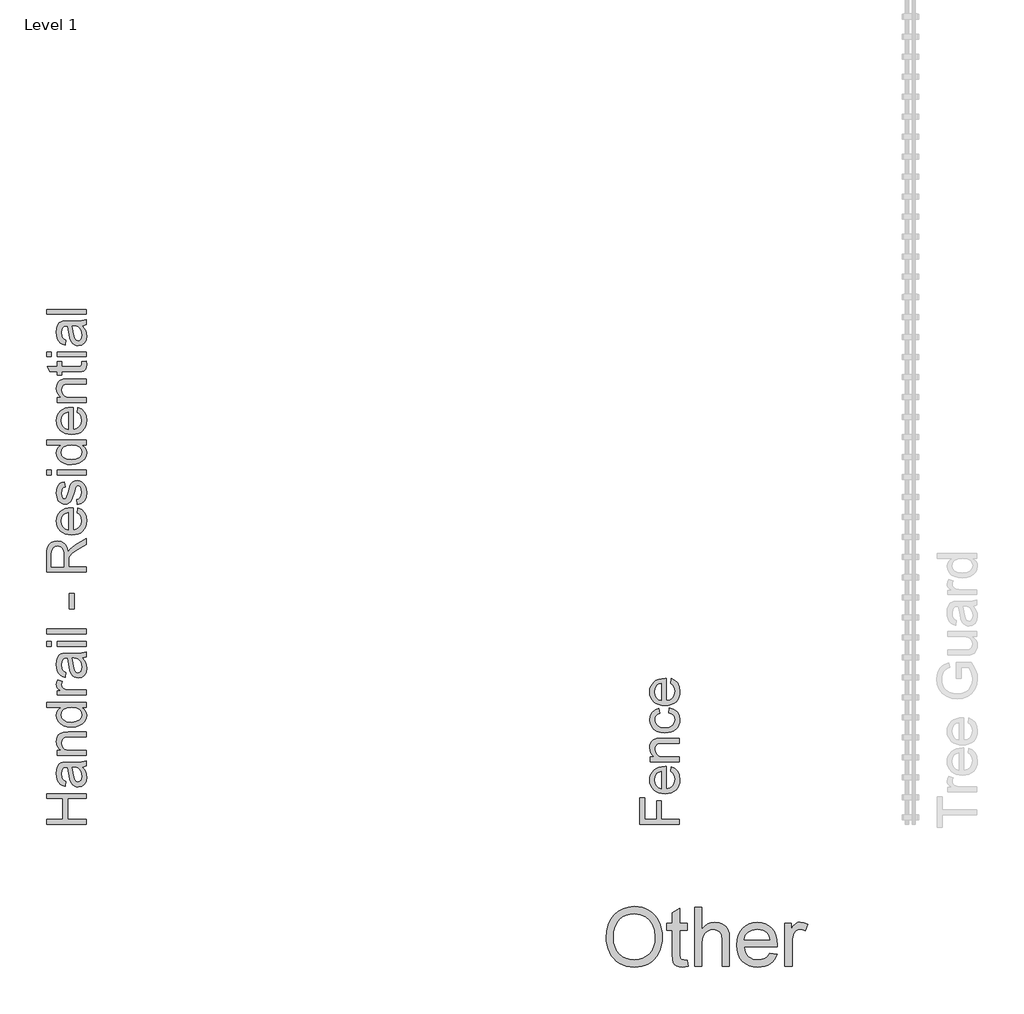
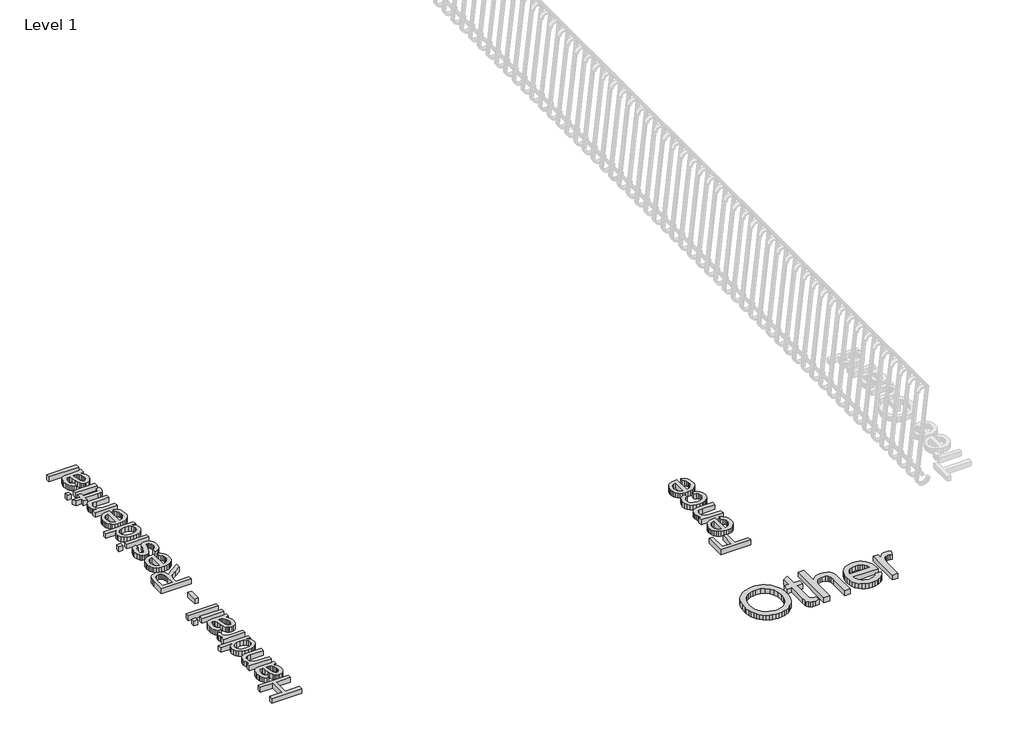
# One storey, part 13 of 14: 3 proxies.
"""IFC4 building model written with IfcOpenShell, lengths in millimetres."""

from ifc_helpers import new_model, si_unit, origin, origin_with_axes, place, context, project, spatial, polyline, outline, extrude, element, save

model = new_model("IFC4")

# Units and contexts
model_context = context("Model", 3, world=origin())
ifc_project = project(units=[si_unit("LENGTHUNIT", "METRE", prefix="MILLI")], contexts=[model_context])

# Site, building, storey
site = spatial("IfcSite", under=ifc_project)
building = spatial("IfcBuilding", under=site)
storey = spatial("IfcBuildingStorey", under=building, Name="Level 1", Elevation=0.0)

# Proxies
placement = place(None, origin())
element("IfcBuildingElementProxy", 1, Name="12\" Arial", ObjectType="12\" Arial", at=placement, inside=storey, context=model_context, shape_type="SweptSolid", body=[
    extrude(outline(polyline([(8164.4958415, -14491.3688513), (7864.3850722, -14491.3688513), (7864.3850722, -14289.7319282), (7901.8989184, -14289.7319282), (7901.8989184, -14453.8550051), (7990.994303, -14453.8550051), (7990.994303, -14313.178082), (8028.5081492, -14313.178082), (8028.5081492, -14453.8550051), (8164.4958415, -14453.8550051), (8164.4958415, -14491.3688513)])), origin_with_axes(), (0.0, 0.0, 1.0), 50.8),
    extrude(outline(polyline([(8098.8466107, -14088.5346205), (8103.5358415, -14051.7534666), (8131.249928, -14065.0060388), (8151.966803, -14086.1533705), (8164.8805049, -14114.7192118), (8169.1850722, -14150.2273128), (8167.3281552, -14173.5040315), (8161.757404, -14194.2438032), (8152.4728186, -14212.4466277), (8139.4743992, -14228.1125051), (8123.1239124, -14240.7102335), (8103.7831251, -14249.7086109), (8081.4520374, -14255.1076373), (8056.1306492, -14256.9073128), (8029.9506371, -14255.08932), (8006.8754088, -14249.6353416), (7986.9049641, -14240.5453777), (7970.039303, -14227.8194282), (7956.6401924, -14212.1947647), (7947.0693992, -14194.4086589), (7941.3269232, -14174.4611109), (7939.4127645, -14152.3521205), (7941.3223439, -14130.9552154), (7947.0510818, -14111.6052695), (7956.5989785, -14094.3022827), (7969.9660338, -14079.0462551), (7986.7950602, -14066.5927755), (8006.7288703, -14057.697433), (8029.7674641, -14052.3602275), (8055.9108415, -14050.5811589), (8066.0219953, -14050.8009666), (8066.0219953, -14219.3934666), (8094.102428, -14212.8999811), (8114.7460338, -14197.8156782), (8127.439928, -14176.045558), (8131.6712261, -14149.4946205), (8129.7112742, -14129.5287551), (8123.8314184, -14112.7134666), (8113.6653126, -14099.0487551), (8098.8466107, -14088.5346205)]), holes=[polyline([(8028.5081492, -14219.3934666), (8028.5081492, -14088.0950051), (8008.6888222, -14093.1688993), (7994.5112261, -14103.1151974), (7981.3227645, -14124.9860628), (7976.9266107, -14152.4986589), (7980.4343751, -14177.7857022), (7990.9576684, -14198.6949089), (8007.3608174, -14213.2296926), (8028.5081492, -14219.3934666)])]), origin_with_axes(), (0.0, 0.0, 1.0), 50.8),
    extrude(outline(polyline([(8164.4958415, -14013.0673128), (7944.1019953, -14013.0673128), (7944.1019953, -13975.5534666), (7974.8750722, -13975.5534666), (7959.3603126, -13962.5207022), (7948.2783415, -13946.8685628), (7941.6291588, -13928.5970484), (7939.4127645, -13907.7061589), (7941.198702, -13889.2148368), (7946.5565145, -13872.2804859), (7954.8176203, -13858.1578416), (7965.3134376, -13848.1016397), (7992.899303, -13836.8548128), (8029.1675722, -13834.8765436), (8164.4958415, -13834.8765436), (8164.4958415, -13872.3903897), (8034.2231492, -13872.3903897), (8001.0321876, -13876.7132743), (7991.1500001, -13882.6938753), (7983.4842068, -13891.9899089), (7978.5660097, -13903.9053176), (7976.9266107, -13917.7440436), (7980.6083895, -13939.7156541), (7991.6537261, -13958.4451013), (8000.6704208, -13965.9300111), (8012.9933895, -13971.2763753), (8047.5581492, -13975.5534666), (8164.4958415, -13975.5534666), (8164.4958415, -14013.0673128)])), origin_with_axes(), (0.0, 0.0, 1.0), 50.8),
    extrude(outline(polyline([(8084.7789184, -13642.618082), (8089.4681492, -13605.1042359), (8122.8331251, -13615.5634186), (8148.0468992, -13635.2178897), (8163.900529, -13662.2176013), (8169.1850722, -13694.7125051), (8167.3418931, -13715.7522226), (8161.8123559, -13734.6167599), (8152.5964605, -13751.3061169), (8139.6942068, -13765.8202936), (8123.3482994, -13777.5685568), (8103.8014424, -13785.9601734), (8081.0536359, -13790.9951433), (8055.1048799, -13792.6734666), (8021.7215867, -13789.806808), (7992.7893992, -13781.206832), (7969.4256732, -13766.7361589), (7952.7477645, -13746.2574089), (7942.7465145, -13721.7580099), (7939.4127645, -13695.2253897), (7943.9920915, -13663.5272888), (7957.7300722, -13638.1852936), (7979.8940145, -13620.0053657), (8009.7512261, -13609.7934666), (8014.4404568, -13647.3073128), (7998.0739424, -13654.1121926), (7986.3417068, -13664.7087551), (7979.2803847, -13678.5108464), (7976.9266107, -13694.9323128), (7981.5608895, -13719.1752695), (7995.4637261, -13738.4176013), (8019.3861299, -13750.9741157), (8054.0791107, -13755.1596205), (8089.2391828, -13751.0657022), (8113.2440145, -13738.7839474), (8127.0644232, -13719.8896445), (8131.6712261, -13695.958082), (8128.7954088, -13676.5325772), (8120.1679568, -13660.6056782), (8105.5690626, -13649.0199811), (8084.7789184, -13642.618082)])), origin_with_axes(), (0.0, 0.0, 1.0), 50.8),
    extrude(outline(polyline([(8098.8466107, -13417.9746205), (8103.5358415, -13381.1934666), (8131.249928, -13394.4460388), (8151.966803, -13415.5933705), (8164.8805049, -13444.1592118), (8169.1850722, -13479.6673128), (8167.3281552, -13502.9440315), (8161.757404, -13523.6838032), (8152.4728186, -13541.8866277), (8139.4743992, -13557.5525051), (8123.1239124, -13570.1502335), (8103.7831251, -13579.1486109), (8081.4520374, -13584.5476373), (8056.1306492, -13586.3473128), (8029.9506371, -13584.52932), (8006.8754088, -13579.0753416), (7986.9049641, -13569.9853777), (7970.039303, -13557.2594282), (7956.6401924, -13541.6347647), (7947.0693992, -13523.8486589), (7941.3269232, -13503.9011109), (7939.4127645, -13481.7921205), (7941.3223439, -13460.3952154), (7947.0510818, -13441.0452695), (7956.5989785, -13423.7422827), (7969.9660338, -13408.4862551), (7986.7950602, -13396.0327755), (8006.7288703, -13387.137433), (8029.7674641, -13381.8002275), (8055.9108415, -13380.0211589), (8066.0219953, -13380.2409666), (8066.0219953, -13548.8334666), (8094.102428, -13542.3399811), (8114.7460338, -13527.2556782), (8127.439928, -13505.485558), (8131.6712261, -13478.9346205), (8129.7112742, -13458.9687551), (8123.8314184, -13442.1534666), (8113.6653126, -13428.4887551), (8098.8466107, -13417.9746205)]), holes=[polyline([(8028.5081492, -13548.8334666), (8028.5081492, -13417.5350051), (8008.6888222, -13422.6088993), (7994.5112261, -13432.5551974), (7981.3227645, -13454.4260628), (7976.9266107, -13481.9386589), (7980.4343751, -13507.2257022), (7990.9576684, -13528.1349089), (8007.3608174, -13542.6696926), (8028.5081492, -13548.8334666)])]), origin_with_axes(), (0.0, 0.0, 1.0), 50.8),
])
element("IfcBuildingElementProxy", 2, Name="12\" Arial", ObjectType="12\" Arial", at=placement, inside=storey, context=model_context, shape_type="SweptSolid", body=[
    extrude(outline(polyline([(3651.3178599, -14491.3688513), (3351.2070907, -14491.3688513), (3351.2070907, -14453.8550051), (3473.1270907, -14453.8550051), (3473.1270907, -14294.4211589), (3351.2070907, -14294.4211589), (3351.2070907, -14256.9073128), (3651.3178599, -14256.9073128), (3651.3178599, -14294.4211589), (3510.6409368, -14294.4211589), (3510.6409368, -14453.8550051), (3651.3178599, -14453.8550051), (3651.3178599, -14491.3688513)])), origin_with_axes(), (0.0, 0.0, 1.0), 50.8),
    extrude(outline(polyline([(3623.1824753, -14055.2703897), (3638.5506964, -14073.1938753), (3648.6068984, -14091.6485628), (3654.1570426, -14111.0557503), (3656.0070907, -14131.8367359), (3651.5559849, -14163.186808), (3638.2026676, -14186.3124089), (3617.925408, -14200.572433), (3592.7024753, -14205.3257743), (3577.1510811, -14203.5306782), (3563.0284368, -14198.1453897), (3550.9390137, -14189.8384907), (3541.487283, -14179.2785628), (3529.1780522, -14153.0115436), (3523.5363214, -14120.5532743), (3517.6015137, -14082.196832), (3510.6409368, -14055.4901974), (3502.2882445, -14055.2703897), (3485.5462253, -14057.8531301), (3474.5924753, -14065.6013513), (3466.4595907, -14082.9295243), (3463.7486291, -14107.0717359), (3465.5528839, -14129.4188513), (3470.9656484, -14145.0251974), (3480.976057, -14155.6675532), (3496.5732445, -14163.1226974), (3491.8840137, -14200.6365436), (3471.3686291, -14194.1247407), (3455.2493984, -14184.4074089), (3442.9218503, -14170.5778416), (3433.7815137, -14151.729332), (3428.1214657, -14128.6770003), (3426.234783, -14102.2359666), (3427.901658, -14076.8756541), (3432.902283, -14056.7724089), (3440.4215378, -14041.6148368), (3449.6443022, -14031.0915436), (3461.0468262, -14024.1126493), (3475.1053599, -14019.5882743), (3507.9299753, -14017.7565436), (3554.6024753, -14017.7565436), (3619.7754561, -14015.8515436), (3651.3178599, -14008.378082), (3651.3178599, -14045.8919282), (3623.1824753, -14055.2703897)]), holes=[polyline([(3548.154783, -14055.2703897), (3559.6580522, -14115.7907743), (3565.7393984, -14148.0658705), (3575.6307445, -14162.683082), (3590.064783, -14167.8119282), (3601.2200234, -14165.0185388), (3610.3603599, -14156.6383705), (3616.4600234, -14142.8545964), (3618.4932445, -14123.8503897), (3616.2493743, -14103.7013513), (3609.5177637, -14085.8969282), (3599.5989416, -14071.4628897), (3587.7934368, -14061.4250051), (3575.6307445, -14056.9738993), (3558.7788214, -14055.4901974), (3548.154783, -14055.2703897)])]), origin_with_axes(), (0.0, 0.0, 1.0), 50.8),
    extrude(outline(polyline([(3651.3178599, -13966.1750051), (3430.9240137, -13966.1750051), (3430.9240137, -13928.6611589), (3461.6970907, -13928.6611589), (3446.1823311, -13915.6283945), (3435.1003599, -13899.9762551), (3428.4511772, -13881.7047407), (3426.234783, -13860.8138513), (3428.0207205, -13842.3225291), (3433.378533, -13825.3881782), (3441.6396387, -13811.2655339), (3452.1354561, -13801.209332), (3479.7213214, -13789.9625051), (3515.9895907, -13787.9842359), (3651.3178599, -13787.9842359), (3651.3178599, -13825.498082), (3521.0451676, -13825.498082), (3487.8542061, -13829.8209666), (3477.9720186, -13835.8015676), (3470.3062253, -13845.0976013), (3465.3880282, -13857.0130099), (3463.7486291, -13870.8517359), (3467.430408, -13892.8233464), (3478.4757445, -13911.5527936), (3487.4924392, -13919.0377034), (3499.815408, -13924.3840676), (3534.3801676, -13928.6611589), (3651.3178599, -13928.6611589), (3651.3178599, -13966.1750051)])), origin_with_axes(), (0.0, 0.0, 1.0), 50.8),
    extrude(outline(polyline([(3651.3178599, -13600.4150051), (3615.9288214, -13600.4150051), (3633.4630642, -13611.6389354), (3645.9875234, -13625.234957), (3653.5021988, -13641.20307), (3656.0070907, -13659.5432743), (3652.3802637, -13683.7953897), (3641.499783, -13705.9959666), (3624.1258166, -13724.7895243), (3601.018533, -13738.820582), (3573.1121147, -13747.5579378), (3541.3407445, -13750.4703897), (3509.9631964, -13747.7869041), (3481.6263214, -13739.7364474), (3457.9420426, -13726.3281782), (3440.522283, -13707.5712551), (3429.806658, -13684.8852695), (3426.234783, -13659.6898128), (3428.7900474, -13641.3358705), (3436.4558407, -13625.1067359), (3448.2063936, -13611.3504378), (3463.0159368, -13600.4150051), (3351.2070907, -13600.4150051), (3351.2070907, -13562.9011589), (3651.3178599, -13562.9011589), (3651.3178599, -13600.4150051)]), holes=[polyline([(3541.1942061, -13712.9565436), (3575.1270186, -13708.7252455), (3599.2600714, -13696.0313513), (3613.6849512, -13677.5858224), (3618.4932445, -13656.0996205), (3613.9047589, -13634.6225772), (3600.1393022, -13616.6441397), (3576.940432, -13604.4722888), (3544.0517061, -13600.4150051), (3508.0948311, -13604.545558), (3483.1649753, -13616.9372166), (3468.6027157, -13635.3735868), (3463.7486291, -13657.6382743), (3468.4103839, -13679.3442839), (3482.3956484, -13697.1303897), (3506.4187974, -13709.0000051), (3541.1942061, -13712.9565436)])]), origin_with_axes(), (0.0, 0.0, 1.0), 50.8),
    extrude(outline(polyline([(3651.3178599, -13506.6303897), (3430.9240137, -13506.6303897), (3430.9240137, -13473.8057743), (3463.5288214, -13473.8057743), (3444.6253599, -13461.6797166), (3433.4884368, -13450.5061589), (3428.0481964, -13439.2959666), (3426.234783, -13427.0600051), (3429.1289176, -13408.3763513), (3437.8113214, -13389.3996205), (3471.4418984, -13401.9286589), (3465.6719464, -13415.1171205), (3463.7486291, -13428.305582), (3465.5986772, -13439.5066157), (3471.1488214, -13449.5170243), (3479.9777637, -13457.6041157), (3491.6642061, -13463.0351974), (3512.6192061, -13467.596207), (3535.4792061, -13469.1165436), (3651.3178599, -13469.1165436), (3651.3178599, -13506.6303897)])), origin_with_axes(), (0.0, 0.0, 1.0), 50.8),
    extrude(outline(polyline([(3623.1824753, -13225.2765436), (3638.5506964, -13243.2000291), (3648.6068984, -13261.6547166), (3654.1570426, -13281.0619041), (3656.0070907, -13301.8428897), (3651.5559849, -13333.1929618), (3638.2026676, -13356.3185628), (3617.925408, -13370.5785868), (3592.7024753, -13375.3319282), (3577.1510811, -13373.536832), (3563.0284368, -13368.1515436), (3550.9390137, -13359.8446445), (3541.487283, -13349.2847166), (3529.1780522, -13323.0176974), (3523.5363214, -13290.5594282), (3517.6015137, -13252.2029859), (3510.6409368, -13225.4963513), (3502.2882445, -13225.2765436), (3485.5462253, -13227.8592839), (3474.5924753, -13235.6075051), (3466.4595907, -13252.9356782), (3463.7486291, -13277.0778897), (3465.5528839, -13299.4250051), (3470.9656484, -13315.0313513), (3480.976057, -13325.673707), (3496.5732445, -13333.1288513), (3491.8840137, -13370.6426974), (3471.3686291, -13364.1308945), (3455.2493984, -13354.4135628), (3442.9218503, -13340.5839955), (3433.7815137, -13321.7354859), (3428.1214657, -13298.6831541), (3426.234783, -13272.2421205), (3427.901658, -13246.881808), (3432.902283, -13226.7785628), (3440.4215378, -13211.6209907), (3449.6443022, -13201.0976974), (3461.0468262, -13194.1188032), (3475.1053599, -13189.5944282), (3507.9299753, -13187.7626974), (3554.6024753, -13187.7626974), (3619.7754561, -13185.8576974), (3651.3178599, -13178.3842359), (3651.3178599, -13215.898082), (3623.1824753, -13225.2765436)]), holes=[polyline([(3548.154783, -13225.2765436), (3559.6580522, -13285.7969282), (3565.7393984, -13318.0720243), (3575.6307445, -13332.6892359), (3590.064783, -13337.818082), (3601.2200234, -13335.0246926), (3610.3603599, -13326.6445243), (3616.4600234, -13312.8607503), (3618.4932445, -13293.8565436), (3616.2493743, -13273.7075051), (3609.5177637, -13255.903082), (3599.5989416, -13241.4690436), (3587.7934368, -13231.4311589), (3575.6307445, -13226.9800532), (3558.7788214, -13225.4963513), (3548.154783, -13225.2765436)])]), origin_with_axes(), (0.0, 0.0, 1.0), 50.8),
    extrude(outline(polyline([(3388.7209368, -13136.1811589), (3351.2070907, -13136.1811589), (3351.2070907, -13098.6673128), (3388.7209368, -13098.6673128), (3388.7209368, -13136.1811589)])), origin_with_axes(), (0.0, 0.0, 1.0), 50.8),
    extrude(outline(polyline([(3651.3178599, -13136.1811589), (3430.9240137, -13136.1811589), (3430.9240137, -13098.6673128), (3651.3178599, -13098.6673128), (3651.3178599, -13136.1811589)])), origin_with_axes(), (0.0, 0.0, 1.0), 50.8),
    extrude(outline(polyline([(3651.3178599, -13042.3965436), (3351.2070907, -13042.3965436), (3351.2070907, -13004.8826974), (3651.3178599, -13004.8826974), (3651.3178599, -13042.3965436)])), origin_with_axes(), (0.0, 0.0, 1.0), 50.8),
    extrude(outline(polyline([(3562.2224753, -12850.138082), (3524.7086291, -12850.138082), (3524.7086291, -12732.9073128), (3562.2224753, -12732.9073128), (3562.2224753, -12850.138082)])), origin_with_axes(), (0.0, 0.0, 1.0), 50.8),
    extrude(outline(polyline([(3651.3178599, -12568.7842359), (3351.2070907, -12568.7842359), (3351.2070907, -12439.4640436), (3353.2311532, -12404.7069522), (3359.3033407, -12379.4199089), (3370.513533, -12360.9377455), (3387.9516099, -12346.5952936), (3409.5751916, -12337.3908464), (3433.3418984, -12334.3226974), (3462.906033, -12339.4057503), (3487.4145907, -12354.6549089), (3497.4021027, -12366.2062611), (3505.3838695, -12380.5281061), (3515.3301676, -12417.4832743), (3531.3761291, -12396.1619282), (3569.9890137, -12365.7551974), (3651.3178599, -12315.7123128), (3651.3178599, -12359.3075051), (3589.112283, -12398.3600051), (3547.9349753, -12426.5686589), (3528.4819945, -12446.3879859), (3521.3382445, -12464.2290436), (3520.0193984, -12485.9900051), (3520.0193984, -12531.2703897), (3651.3178599, -12531.2703897), (3651.3178599, -12568.7842359)]), holes=[polyline([(3482.5055522, -12531.2703897), (3482.5055522, -12447.3038513), (3481.1775474, -12423.1891157), (3477.193533, -12404.4779859), (3470.287908, -12390.3919763), (3460.1950714, -12380.1526013), (3447.9865859, -12373.915558), (3434.7340137, -12371.8365436), (3416.4350234, -12375.8022407), (3401.6895907, -12387.699332), (3391.9631003, -12408.1689234), (3388.7209368, -12437.8521205), (3388.7209368, -12531.2703897), (3482.5055522, -12531.2703897)])]), origin_with_axes(), (0.0, 0.0, 1.0), 50.8),
    extrude(outline(polyline([(3585.6686291, -12119.0576974), (3590.3578599, -12082.2765436), (3618.0719464, -12095.5291157), (3638.7888214, -12116.6764474), (3651.7025234, -12145.2422888), (3656.0070907, -12180.7503897), (3654.1501736, -12204.0271085), (3648.5794224, -12224.7668801), (3639.2948371, -12242.9697046), (3626.2964176, -12258.635582), (3609.9459308, -12271.2333104), (3590.6051436, -12280.2316878), (3568.2740558, -12285.6307142), (3542.9526676, -12287.4303897), (3516.7726556, -12285.6123969), (3493.6974272, -12280.1584186), (3473.7269825, -12271.0684546), (3456.8613214, -12258.3425051), (3443.4622109, -12242.7178416), (3433.8914176, -12224.9317359), (3428.1489416, -12204.9841878), (3426.234783, -12182.8751974), (3428.1443623, -12161.4782924), (3433.8731003, -12142.1283464), (3443.4209969, -12124.8253597), (3456.7880522, -12109.569332), (3473.6170786, -12097.1158525), (3493.5508887, -12088.2205099), (3516.5894825, -12082.8833044), (3542.7328599, -12081.1042359), (3552.8440137, -12081.3240436), (3552.8440137, -12249.9165436), (3580.9244464, -12243.423058), (3601.5680522, -12228.3387551), (3614.2619464, -12206.5686349), (3618.4932445, -12180.0176974), (3616.5332926, -12160.051832), (3610.6534368, -12143.2365436), (3600.4873311, -12129.571832), (3585.6686291, -12119.0576974)]), holes=[polyline([(3515.3301676, -12249.9165436), (3515.3301676, -12118.618082), (3495.5108407, -12123.6919763), (3481.3332445, -12133.6382743), (3468.144783, -12155.5091397), (3463.7486291, -12183.0217359), (3467.2563936, -12208.3087791), (3477.7796868, -12229.2179859), (3494.1828359, -12243.7527695), (3515.3301676, -12249.9165436)])]), origin_with_axes(), (0.0, 0.0, 1.0), 50.8),
    extrude(outline(polyline([(3585.6686291, -12057.658082), (3580.9793984, -12020.1442359), (3597.0253599, -12014.2277455), (3608.8217061, -12002.7794282), (3616.0753599, -11985.7260147), (3618.4932445, -11962.9942359), (3616.2768503, -11940.5372166), (3609.6276676, -11924.7476974), (3599.9927637, -11915.4058705), (3588.8192061, -11912.2919282), (3579.2575714, -11915.4241878), (3571.967283, -11924.8209666), (3561.2699753, -11963.4338513), (3542.916033, -12019.9244282), (3533.6932686, -12034.2210868), (3521.484783, -12044.5795243), (3507.0690618, -12050.8715195), (3491.2245907, -12052.9688513), (3476.689807, -12051.2836589), (3463.2723791, -12046.228082), (3451.5035089, -12038.2600532), (3441.9143984, -12027.8375051), (3430.8141099, -12003.9883705), (3426.234783, -11971.7132743), (3428.0756724, -11947.2963032), (3433.5983407, -11926.0665436), (3442.2624272, -11908.9948128), (3453.5275714, -11897.0519282), (3468.2272109, -11889.1388513), (3487.194783, -11884.1565436), (3491.8840137, -11921.6703897), (3480.0785089, -11926.4054138), (3471.1854561, -11935.7747166), (3465.6078359, -11949.8698849), (3463.7486291, -11968.7825051), (3465.525408, -11990.3236589), (3470.8557445, -12004.6844282), (3478.5490137, -12012.7623609), (3487.4145907, -12015.4550051), (3498.3317061, -12010.985582), (3506.6111291, -11996.9911589), (3514.5974753, -11964.6794282), (3532.2553599, -11909.6176013), (3540.6996387, -11895.0736589), (3552.2578599, -11884.0466397), (3566.966658, -11877.0952214), (3584.8626676, -11874.778082), (3603.3631484, -11877.4982022), (3620.7645907, -11885.6585628), (3635.7023551, -11898.9477695), (3646.8118022, -11917.0544282), (3653.7082686, -11938.9252936), (3656.0070907, -11963.5071205), (3651.5743022, -12001.3323609), (3638.2759368, -12028.9365436), (3616.258533, -12047.3637551), (3585.6686291, -12057.658082)])), origin_with_axes(), (0.0, 0.0, 1.0), 50.8),
    extrude(outline(polyline([(3388.7209368, -11832.5750051), (3351.2070907, -11832.5750051), (3351.2070907, -11795.0611589), (3388.7209368, -11795.0611589), (3388.7209368, -11832.5750051)])), origin_with_axes(), (0.0, 0.0, 1.0), 50.8),
    extrude(outline(polyline([(3651.3178599, -11832.5750051), (3430.9240137, -11832.5750051), (3430.9240137, -11795.0611589), (3651.3178599, -11795.0611589), (3651.3178599, -11832.5750051)])), origin_with_axes(), (0.0, 0.0, 1.0), 50.8),
    extrude(outline(polyline([(3651.3178599, -11602.8026974), (3615.9288214, -11602.8026974), (3633.4630642, -11614.0266277), (3645.9875234, -11627.6226493), (3653.5021988, -11643.5907623), (3656.0070907, -11661.9309666), (3652.3802637, -11686.183082), (3641.499783, -11708.3836589), (3624.1258166, -11727.1772166), (3601.018533, -11741.2082743), (3573.1121147, -11749.9456301), (3541.3407445, -11752.858082), (3509.9631964, -11750.1745964), (3481.6263214, -11742.1241397), (3457.9420426, -11728.7158705), (3440.522283, -11709.9589474), (3429.806658, -11687.2729618), (3426.234783, -11662.0775051), (3428.7900474, -11643.7235628), (3436.4558407, -11627.4944282), (3448.2063936, -11613.7381301), (3463.0159368, -11602.8026974), (3351.2070907, -11602.8026974), (3351.2070907, -11565.2888513), (3651.3178599, -11565.2888513), (3651.3178599, -11602.8026974)]), holes=[polyline([(3541.1942061, -11715.3442359), (3575.1270186, -11711.1129378), (3599.2600714, -11698.4190436), (3613.6849512, -11679.9735147), (3618.4932445, -11658.4873128), (3613.9047589, -11637.0102695), (3600.1393022, -11619.031832), (3576.940432, -11606.8599811), (3544.0517061, -11602.8026974), (3508.0948311, -11606.9332503), (3483.1649753, -11619.3249089), (3468.6027157, -11637.7612791), (3463.7486291, -11660.0259666), (3468.4103839, -11681.7319763), (3482.3956484, -11699.518082), (3506.4187974, -11711.3876974), (3541.1942061, -11715.3442359)])]), origin_with_axes(), (0.0, 0.0, 1.0), 50.8),
    extrude(outline(polyline([(3585.6686291, -11354.713082), (3590.3578599, -11317.9319282), (3618.0719464, -11331.1845003), (3638.7888214, -11352.331832), (3651.7025234, -11380.8976734), (3656.0070907, -11416.4057743), (3654.1501736, -11439.6824931), (3648.5794224, -11460.4222647), (3639.2948371, -11478.6250892), (3626.2964176, -11494.2909666), (3609.9459308, -11506.888695), (3590.6051436, -11515.8870724), (3568.2740558, -11521.2860989), (3542.9526676, -11523.0857743), (3516.7726556, -11521.2677815), (3493.6974272, -11515.8138032), (3473.7269825, -11506.7238392), (3456.8613214, -11493.9978897), (3443.4622109, -11478.3732263), (3433.8914176, -11460.5871205), (3428.1489416, -11440.6395724), (3426.234783, -11418.530582), (3428.1443623, -11397.133677), (3433.8731003, -11377.7837311), (3443.4209969, -11360.4807443), (3456.7880522, -11345.2247166), (3473.6170786, -11332.7712371), (3493.5508887, -11323.8758945), (3516.5894825, -11318.538689), (3542.7328599, -11316.7596205), (3552.8440137, -11316.9794282), (3552.8440137, -11485.5719282), (3580.9244464, -11479.0784426), (3601.5680522, -11463.9941397), (3614.2619464, -11442.2240195), (3618.4932445, -11415.673082), (3616.5332926, -11395.7072166), (3610.6534368, -11378.8919282), (3600.4873311, -11365.2272166), (3585.6686291, -11354.713082)]), holes=[polyline([(3515.3301676, -11485.5719282), (3515.3301676, -11354.2734666), (3495.5108407, -11359.3473609), (3481.3332445, -11369.2936589), (3468.144783, -11391.1645243), (3463.7486291, -11418.6771205), (3467.2563936, -11443.9641638), (3477.7796868, -11464.8733705), (3494.1828359, -11479.4081541), (3515.3301676, -11485.5719282)])]), origin_with_axes(), (0.0, 0.0, 1.0), 50.8),
    extrude(outline(polyline([(3651.3178599, -11279.2457743), (3430.9240137, -11279.2457743), (3430.9240137, -11241.7319282), (3461.6970907, -11241.7319282), (3446.1823311, -11228.6991638), (3435.1003599, -11213.0470243), (3428.4511772, -11194.7755099), (3426.234783, -11173.8846205), (3428.0207205, -11155.3932984), (3433.378533, -11138.4589474), (3441.6396387, -11124.3363032), (3452.1354561, -11114.2801013), (3479.7213214, -11103.0332743), (3515.9895907, -11101.0550051), (3651.3178599, -11101.0550051), (3651.3178599, -11138.5688513), (3521.0451676, -11138.5688513), (3487.8542061, -11142.8917359), (3477.9720186, -11148.8723368), (3470.3062253, -11158.1683705), (3465.3880282, -11170.0837791), (3463.7486291, -11183.9225051), (3467.430408, -11205.8941157), (3478.4757445, -11224.6235628), (3487.4924392, -11232.1084726), (3499.815408, -11237.4548368), (3534.3801676, -11241.7319282), (3651.3178599, -11241.7319282), (3651.3178599, -11279.2457743)])), origin_with_axes(), (0.0, 0.0, 1.0), 50.8),
    extrude(outline(polyline([(3620.0318984, -10969.7565436), (3652.4168984, -10965.0673128), (3656.0070907, -10993.1294282), (3654.4501195, -11011.1353416), (3649.7792061, -11024.5619282), (3642.5805041, -11034.0502936), (3633.4401676, -11040.2415436), (3617.7422349, -11043.6485628), (3590.8707445, -11044.7842359), (3468.4378599, -11044.7842359), (3468.4378599, -11072.9196205), (3430.9240137, -11072.9196205), (3430.9240137, -11044.7842359), (3377.3642061, -11044.7842359), (3355.3101676, -11007.2703897), (3430.9240137, -11007.2703897), (3430.9240137, -10969.7565436), (3468.4378599, -10969.7565436), (3468.4378599, -11007.2703897), (3589.7717061, -11007.2703897), (3609.114783, -11005.2921205), (3615.9654561, -10998.8810628), (3618.4932445, -10986.095582), (3620.0318984, -10969.7565436)])), origin_with_axes(), (0.0, 0.0, 1.0), 50.8),
    extrude(outline(polyline([(3388.7209368, -10932.2426974), (3351.2070907, -10932.2426974), (3351.2070907, -10894.7288513), (3388.7209368, -10894.7288513), (3388.7209368, -10932.2426974)])), origin_with_axes(), (0.0, 0.0, 1.0), 50.8),
    extrude(outline(polyline([(3651.3178599, -10932.2426974), (3430.9240137, -10932.2426974), (3430.9240137, -10894.7288513), (3651.3178599, -10894.7288513), (3651.3178599, -10932.2426974)])), origin_with_axes(), (0.0, 0.0, 1.0), 50.8),
    extrude(outline(polyline([(3623.1824753, -10697.7811589), (3638.5506964, -10715.7046445), (3648.6068984, -10734.159332), (3654.1570426, -10753.5665195), (3656.0070907, -10774.3475051), (3651.5559849, -10805.6975772), (3638.2026676, -10828.8231782), (3617.925408, -10843.0832022), (3592.7024753, -10847.8365436), (3577.1510811, -10846.0414474), (3563.0284368, -10840.6561589), (3550.9390137, -10832.3492599), (3541.487283, -10821.789332), (3529.1780522, -10795.5223128), (3523.5363214, -10763.0640436), (3517.6015137, -10724.7076013), (3510.6409368, -10698.0009666), (3502.2882445, -10697.7811589), (3485.5462253, -10700.3638993), (3474.5924753, -10708.1121205), (3466.4595907, -10725.4402936), (3463.7486291, -10749.5825051), (3465.5528839, -10771.9296205), (3470.9656484, -10787.5359666), (3480.976057, -10798.1783224), (3496.5732445, -10805.6334666), (3491.8840137, -10843.1473128), (3471.3686291, -10836.6355099), (3455.2493984, -10826.9181782), (3442.9218503, -10813.0886109), (3433.7815137, -10794.2401013), (3428.1214657, -10771.1877695), (3426.234783, -10744.7467359), (3427.901658, -10719.3864234), (3432.902283, -10699.2831782), (3440.4215378, -10684.1256061), (3449.6443022, -10673.6023128), (3461.0468262, -10666.6234186), (3475.1053599, -10662.0990436), (3507.9299753, -10660.2673128), (3554.6024753, -10660.2673128), (3619.7754561, -10658.3623128), (3651.3178599, -10650.8888513), (3651.3178599, -10688.4026974), (3623.1824753, -10697.7811589)]), holes=[polyline([(3548.154783, -10697.7811589), (3559.6580522, -10758.3015436), (3565.7393984, -10790.5766397), (3575.6307445, -10805.1938513), (3590.064783, -10810.3226974), (3601.2200234, -10807.529308), (3610.3603599, -10799.1491397), (3616.4600234, -10785.3653657), (3618.4932445, -10766.3611589), (3616.2493743, -10746.2121205), (3609.5177637, -10728.4076974), (3599.5989416, -10713.9736589), (3587.7934368, -10703.9357743), (3575.6307445, -10699.4846686), (3558.7788214, -10698.0009666), (3548.154783, -10697.7811589)])]), origin_with_axes(), (0.0, 0.0, 1.0), 50.8),
    extrude(outline(polyline([(3651.3178599, -10608.6857743), (3351.2070907, -10608.6857743), (3351.2070907, -10571.1719282), (3651.3178599, -10571.1719282), (3651.3178599, -10608.6857743)])), origin_with_axes(), (0.0, 0.0, 1.0), 50.8),
])
element("IfcBuildingElementProxy", 3, Name="18\" Arial", ObjectType="18\" Arial", at=placement, inside=storey, context=model_context, shape_type="SweptSolid", body=[
    extrude(outline(polyline([(7608.2216229, -15352.7144916), (7611.9522028, -15300.1925728), (7623.1439425, -15253.6969753), (7641.796842, -15213.2276992), (7667.9109013, -15178.7847445), (7699.9214632, -15151.2836747), (7736.2638707, -15131.6400534), (7776.9381237, -15119.8538807), (7821.9442223, -15115.9251564), (7852.0689966, -15117.7699487), (7880.6769417, -15123.3043254), (7907.7680577, -15132.5282867), (7933.3423444, -15145.4418325), (7956.6823828, -15161.6555067), (7977.0707535, -15180.7798531), (7994.5074567, -15202.8148718), (8008.9924922, -15227.7605627), (8020.3755437, -15255.049823), (8028.5062947, -15284.1155499), (8033.3847454, -15314.9577434), (8035.0108956, -15347.5764036), (8033.2993383, -15380.6255153), (8028.1646665, -15411.8844952), (8019.6068802, -15441.3533434), (8007.6259794, -15469.0320598), (7992.5055154, -15494.1895602), (7974.5290398, -15516.0947601), (7953.6965524, -15534.7476596), (7930.0080533, -15550.1482587), (7904.3961874, -15562.2009014), (7877.7935998, -15570.809932), (7850.2002904, -15575.9753503), (7821.6162592, -15577.6971564), (7790.9653775, -15575.7942874), (7761.9816413, -15570.0856802), (7734.6650508, -15560.5713349), (7709.0156058, -15547.2512516), (7685.7028977, -15530.6412887), (7665.3965177, -15511.2573049), (7648.0964659, -15489.0993001), (7633.8027422, -15464.1672743), (7622.6110025, -15437.4621982), (7614.6169027, -15409.9850424), (7609.8204428, -15381.7358069), (7608.2216229, -15352.7144916)]), holes=[polyline([(7664.1939865, -15353.2610968), (7666.9919214, -15390.3687514), (7675.3857262, -15423.3085421), (7689.3754008, -15452.0804687), (7708.9609453, -15476.6845314), (7732.7690143, -15496.3896458), (7759.4262624, -15510.4647274), (7788.9326897, -15518.9097764), (7821.2882962, -15521.7247928), (7854.1973403, -15518.8824462), (7884.0522283, -15510.3554064), (7910.8529603, -15496.1436735), (7934.5995362, -15476.2472473), (7954.0415968, -15451.1239098), (7967.928783, -15421.2314426), (7976.2610947, -15386.5698459), (7979.0385319, -15347.1391195), (7974.2830675, -15297.5893659), (7960.016674, -15254.7628553), (7936.60831, -15219.7391326), (7904.4269339, -15193.5977431), (7865.6043057, -15177.3225758), (7822.2721854, -15171.89752), (7791.0405357, -15174.5109757), (7762.0636321, -15182.3513428), (7735.3414746, -15195.4186213), (7710.8740632, -15213.7128112), (7690.4515296, -15238.1153133), (7675.8640057, -15269.5075282), (7667.1114913, -15307.889456), (7664.1939865, -15353.2610968)])]), origin_with_axes(), (0.0, 0.0, 1.0), 50.8),
    extrude(outline(polyline([(8223.9176229, -15524.0205343), (8230.9141683, -15572.3404263), (8189.0442166, -15577.6971564), (8162.1785753, -15575.3740847), (8142.1454979, -15568.4048695), (8127.9884254, -15557.664079), (8118.750799, -15544.0262814), (8113.6673714, -15520.6042523), (8111.9728956, -15480.5107672), (8111.9728956, -15297.8353382), (8069.9936229, -15297.8353382), (8069.9936229, -15241.8629746), (8111.9728956, -15241.8629746), (8111.9728956, -15161.949307), (8167.9452592, -15129.0436791), (8167.9452592, -15241.8629746), (8223.9176229, -15241.8629746), (8223.9176229, -15297.8353382), (8167.9452592, -15297.8353382), (8167.9452592, -15478.8709519), (8170.8969268, -15507.7317019), (8180.4625163, -15517.9532175), (8199.5390348, -15521.7247928), (8223.9176229, -15524.0205343)])), origin_with_axes(), (0.0, 0.0, 1.0), 50.8),
    extrude(outline(polyline([(8279.8899865, -15570.700611), (8279.8899865, -15122.9217019), (8335.8623501, -15122.9217019), (8335.8623501, -15287.5591621), (8356.421535, -15264.5060914), (8379.5087685, -15248.0396124), (8405.1240506, -15238.1597249), (8433.2673814, -15234.8664291), (8467.0749077, -15238.4603578), (8496.1269694, -15249.2421436), (8519.0023935, -15266.3645488), (8534.2800064, -15288.9803354), (8542.8890369, -15320.0548361), (8545.7587138, -15362.5533837), (8545.7587138, -15570.700611), (8489.7863501, -15570.700611), (8489.7863501, -15368.3473979), (8485.3315185, -15333.3100101), (8479.7629789, -15319.9318499), (8471.9670234, -15309.3140456), (8450.4307819, -15295.457606), (8421.4607109, -15290.8387928), (8397.8063746, -15293.9544419), (8375.6005419, -15303.3013894), (8357.2072798, -15317.9777367), (8344.9906555, -15337.0815854), (8338.1444265, -15362.4713929), (8335.8623501, -15396.0056166), (8335.8623501, -15570.700611), (8279.8899865, -15570.700611)])), origin_with_axes(), (0.0, 0.0, 1.0), 50.8),
    extrude(outline(polyline([(8852.9507876, -15472.7489746), (8907.829941, -15479.74552), (8899.4156386, -15501.7258782), (8888.0565011, -15521.0961969), (8873.7525285, -15537.8564762), (8856.5037209, -15552.0067161), (8836.4877249, -15563.2462837), (8813.8821871, -15571.2745463), (8788.6871077, -15576.0915039), (8760.9024865, -15577.6971564), (8726.1725641, -15574.9265517), (8695.2278821, -15566.6147377), (8668.0684405, -15552.7617144), (8644.6942393, -15533.3674817), (8625.897856, -15508.9718122), (8612.4718679, -15480.1144785), (8604.416275, -15446.7954805), (8601.7310774, -15409.0148183), (8604.4436053, -15369.9530504), (8612.5811889, -15335.5237608), (8626.1438283, -15305.7269496), (8645.1315234, -15280.5626166), (8668.4442315, -15260.5705346), (8694.9819098, -15246.290476), (8724.7445582, -15237.7224409), (8757.7321768, -15234.8664291), (8789.6573318, -15237.7156083), (8818.5283306, -15246.2631458), (8844.3451734, -15260.5090415), (8867.1078601, -15280.4532956), (8885.6890177, -15305.562968), (8898.9612731, -15335.3051188), (8906.9246263, -15369.6797479), (8909.5790774, -15408.6868553), (8909.2511143, -15423.7731564), (8657.703441, -15423.7731564), (8660.9454926, -15446.1088079), (8667.3920167, -15465.6704384), (8677.0430132, -15482.4580479), (8689.8984822, -15496.4716365), (8705.2478371, -15507.5198924), (8722.3804911, -15515.4115037), (8741.2964443, -15520.1464705), (8761.9956967, -15521.7247928), (8791.7856754, -15518.8004554), (8816.8748501, -15510.0274433), (8837.2632209, -15494.8591514), (8852.9507876, -15472.7489746)]), holes=[polyline([(8657.703441, -15367.8007928), (8853.6067138, -15367.8007928), (8846.0362329, -15338.2294561), (8831.1959041, -15317.0758382), (8815.9319563, -15305.5971308), (8798.5635788, -15297.3980541), (8779.0907716, -15292.4786081), (8757.5135348, -15290.8387928), (8719.7841168, -15296.0725367), (8688.58663, -15311.7737686), (8676.1821102, -15323.1260736), (8666.9000721, -15336.2480126), (8660.7405157, -15351.1395857), (8657.703441, -15367.8007928)])]), origin_with_axes(), (0.0, 0.0, 1.0), 50.8),
    extrude(outline(polyline([(8965.551441, -15570.700611), (8965.551441, -15241.8629746), (9014.5272592, -15241.8629746), (9014.5272592, -15290.5108297), (9032.6198885, -15262.3060058), (9049.2913444, -15245.6892104), (9066.0174609, -15237.5721245), (9084.2740717, -15234.8664291), (9112.1509325, -15239.1846095), (9140.4650774, -15252.1391507), (9121.7711825, -15302.3175002), (9102.0933984, -15293.7084696), (9082.4156143, -15290.8387928), (9065.703163, -15293.5991486), (9050.7671783, -15301.8802161), (9038.7008704, -15315.0533993), (9030.5974496, -15332.4901024), (9023.7922159, -15363.7559149), (9021.5238047, -15397.864074), (9021.5238047, -15570.700611), (8965.551441, -15570.700611)])), origin_with_axes(), (0.0, 0.0, 1.0), 50.8),
])

save(model, "model.ifc")
